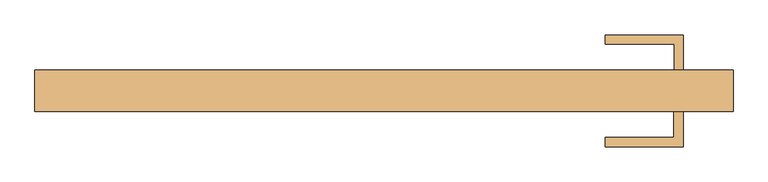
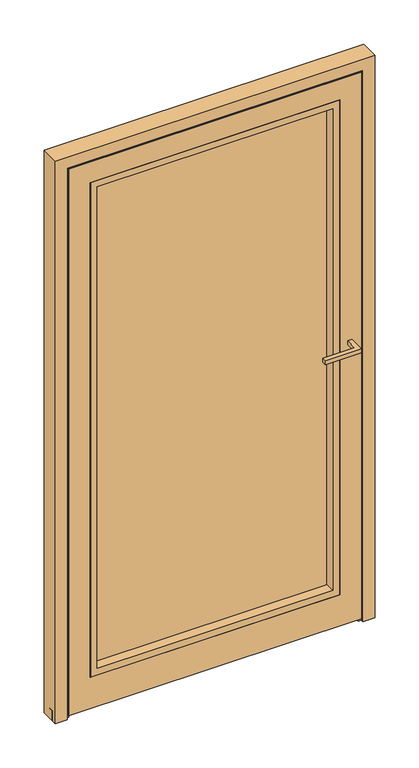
"""IFC4 building model written with IfcOpenShell, lengths in millimetres: door geometry, Reynaers_CS 77_Door_Plinth_Inward Opening_Single Vent : Reynaers_CS 77_Door_Plinth_Inward Opening_Single Vent."""

from ifc_helpers import new_model, si_unit, frame, origin, place, context, project, spatial, polyline, outline, extrude, faceted_brep, source, transform, mapped, element, save


def door_75182414(model_context):
    return source(origin(), model_context, "Body", "SolidModel", [
        extrude(outline(polyline([(488.7934348, 42.5), (473.7934348, 42.5), (473.7934348, 85.0), (361.2934348, 85.0), (361.2934348, 100.0), (488.7934348, 100.0), (488.7934348, 42.5)])), frame((0.0, 0.0, 1062.5), z_axis=(0.0, 0.0, 1.0), x_axis=(1.0, 0.0, 0.0)), (0.0, 0.0, 1.0), 15.0),
        extrude(outline(polyline([(488.5, -25.5), (488.5, -83.0), (361.0, -83.0), (361.0, -68.0), (473.5, -68.0), (473.5, -25.5), (488.5, -25.5)])), frame((0.0, 0.0, 1062.5), z_axis=(0.0, 0.0, 1.0), x_axis=(1.0, 0.0, 0.0)), (0.0, 0.0, 1.0), 15.0),
        faceted_brep([(-522.0, -25.5, 14.0), (-522.0, -21.5, 14.0), (522.0, -21.5, 14.0), (522.0, -25.5, 14.0), (-522.0, -25.5, 2072.0), (-522.0, -21.5, 2072.0), (522.0, -21.5, 2072.0), (507.0, -21.5, 2057.0), (-507.0, -21.5, 2057.0), (-507.0, -21.5, 40.0), (507.0, -21.5, 40.0), (522.0, -25.5, 2072.0), (-445.0, -25.5, 1995.0), (445.0, -25.5, 1995.0), (445.0, -25.5, 131.0), (-445.0, -25.5, 131.0), (445.0, 34.5, 1995.0), (445.0, 34.5, 131.0), (-445.0, 34.5, 1995.0), (-445.0, 34.5, 131.0), (-420.0, 34.5, 1970.0), (420.0, 34.5, 1970.0), (420.0, 34.5, 156.0), (-420.0, 34.5, 156.0), (-507.0, 32.7, 2057.0), (-507.0, 32.7, 40.0), (507.0, 32.7, 40.0), (-496.0, 32.7, 40.0), (-496.0, 42.5, 40.0), (496.0, 42.5, 40.0), (496.0, 32.7, 40.0), (507.0, 32.7, 2057.0), (496.0, 32.7, 2046.0), (-496.0, 32.7, 2046.0), (496.0, 42.5, 2046.0), (-496.0, 42.5, 2046.0), (420.0, 42.5, 1970.0), (-420.0, 42.5, 1970.0), (-420.0, 42.5, 156.0), (420.0, 42.5, 156.0)], [[[0, 1, 2, 3]], [[1, 0, 4, 5]], [[5, 6, 2, 1], [7, 8, 9, 10]], [[6, 11, 3, 2]], [[11, 4, 0, 3], [12, 13, 14, 15]], [[13, 16, 17, 14]], [[16, 18, 19, 17], [20, 21, 22, 23]], [[15, 14, 17, 19]], [[18, 12, 15, 19]], [[8, 24, 25, 9]], [[26, 10, 9, 25, 27, 28, 29, 30]], [[31, 7, 10, 26]], [[24, 31, 26, 30, 32, 33, 27, 25]], [[34, 32, 30, 29]], [[35, 34, 29, 28], [36, 37, 38, 39]], [[21, 36, 39, 22]], [[39, 38, 23, 22]], [[33, 35, 28, 27]], [[37, 20, 23, 38]], [[12, 18, 16, 13]], [[5, 4, 11, 6]], [[8, 7, 31, 24]], [[35, 33, 32, 34]], [[20, 37, 36, 21]]]),
        extrude(outline(polyline([(132.0, -444.0), (132.0, 444.0), (1994.0, 444.0), (1994.0, -444.0), (132.0, -444.0)]), holes=[polyline([(156.0, 420.0), (156.0, -420.0), (1970.0, -420.0), (1970.0, 420.0), (156.0, 420.0)])]), frame((0.0, -25.5, 0.0), z_axis=(0.0, 1.0, 0.0), x_axis=(0.0, 0.0, 1.0)), (0.0, 0.0, 1.0), 36.0),
        extrude(outline(polyline([(439.0, 10.5), (-439.0, 10.5), (-439.0, 34.5), (439.0, 34.5), (439.0, 10.5)])), frame((0.0, 0.0, 137.0), z_axis=(0.0, 0.0, 1.0), x_axis=(1.0, 0.0, 0.0)), (0.0, 0.0, 1.0), 1852.0),
        faceted_brep([(-502.0, 38.7, 0.0), (-517.0, 38.7, 0.0), (-517.0, -15.7, 0.0), (-528.0, -15.7, 0.0), (-528.0, -25.5, 0.0), (-570.0, -25.5, 0.0), (-570.0, 42.5, 0.0), (-502.0, 42.5, 0.0), (-502.0, 38.7, 2052.0), (502.0, 38.7, 2052.0), (502.0, 38.7, 0.0), (517.0, 38.7, 0.0), (517.0, 38.7, 2067.0), (-517.0, 38.7, 2067.0), (-517.0, -15.7, 2067.0), (517.0, -15.7, 2067.0), (517.0, -15.7, 0.0), (528.0, -15.7, 0.0), (528.0, -15.7, 2078.0), (-528.0, -15.7, 2078.0), (-528.0, -25.5, 2078.0), (528.0, -25.5, 2078.0), (528.0, -25.5, 0.0), (570.0, -25.5, 0.0), (570.0, -25.5, 2120.0), (-570.0, -25.5, 2120.0), (-570.0, 42.5, 2120.0), (570.0, 42.5, 2120.0), (570.0, 42.5, 0.0), (502.0, 42.5, 0.0), (502.0, 42.5, 2052.0), (-502.0, 42.5, 2052.0)], [[[0, 1, 2, 3, 4, 5, 6, 7]], [[1, 0, 8, 9, 10, 11, 12, 13]], [[2, 1, 13, 14]], [[3, 2, 14, 15, 16, 17, 18, 19]], [[4, 3, 19, 20]], [[5, 4, 20, 21, 22, 23, 24, 25]], [[6, 5, 25, 26]], [[7, 6, 26, 27, 28, 29, 30, 31]], [[0, 7, 31, 8]], [[9, 30, 29, 10]], [[10, 29, 28, 23, 22, 17, 16, 11]], [[15, 12, 11, 16]], [[27, 24, 23, 28]], [[21, 18, 17, 22]], [[26, 25, 24, 27]], [[8, 31, 30, 9]], [[14, 13, 12, 15]], [[20, 19, 18, 21]]]),
        extrude(outline(polyline([(-570.0, -7.5), (-570.0, 7.5), (570.0, 7.5), (570.0, -7.5), (-570.0, -7.5)])), frame((0.0, 0.0, 1.0), z_axis=(0.0, 0.0, 1.0), x_axis=(1.0, 0.0, 0.0)), (0.0, 0.0, 1.0), 37.9996311),
        extrude(outline(polyline([(502.0, 42.5), (502.0, 38.7), (-502.0, 38.7), (-502.0, 42.5), (502.0, 42.5)])), frame((0.0, 0.0, 14.0), z_axis=(0.0, 0.0, 1.0), x_axis=(1.0, 0.0, 0.0)), (0.0, 0.0, 1.0), 26.0),
    ])


if __name__ == "__main__":
    model = new_model("IFC4")
    model_context = context("Model", 3, world=origin())
    ifc_project = project(units=[si_unit("LENGTHUNIT", "METRE", prefix="MILLI")], contexts=[model_context])
    site = spatial("IfcSite", under=ifc_project)
    building = spatial("IfcBuilding", under=site)
    placement = place(None, origin())
    door_shape = door_75182414(model_context)
    element("IfcDoor", 1, ObjectType="Reynaers_CS 77_Door_Plinth_Inward Opening_Single Vent : Reynaers_CS 77_Door_Plinth_Inward Opening_Single Vent", at=placement, inside=building, context=model_context, shape_type="MappedRepresentation", body=[
        mapped(door_shape, transform((0.0, 0.0, 0.0), x_axis=(1.0, 0.0, 0.0), y_axis=(0.0, 1.0, 0.0), z_axis=(0.0, 0.0, 1.0))),
    ])
    save(model, "model.ifc")
